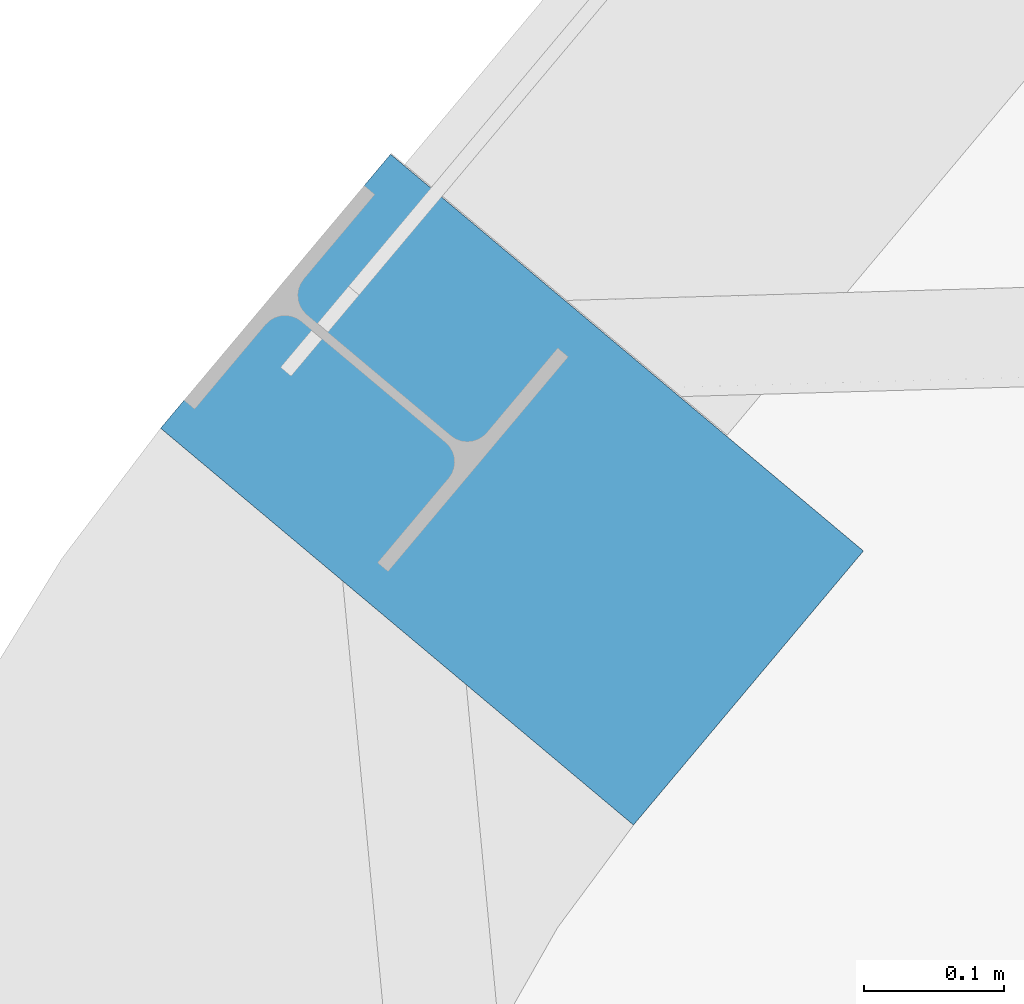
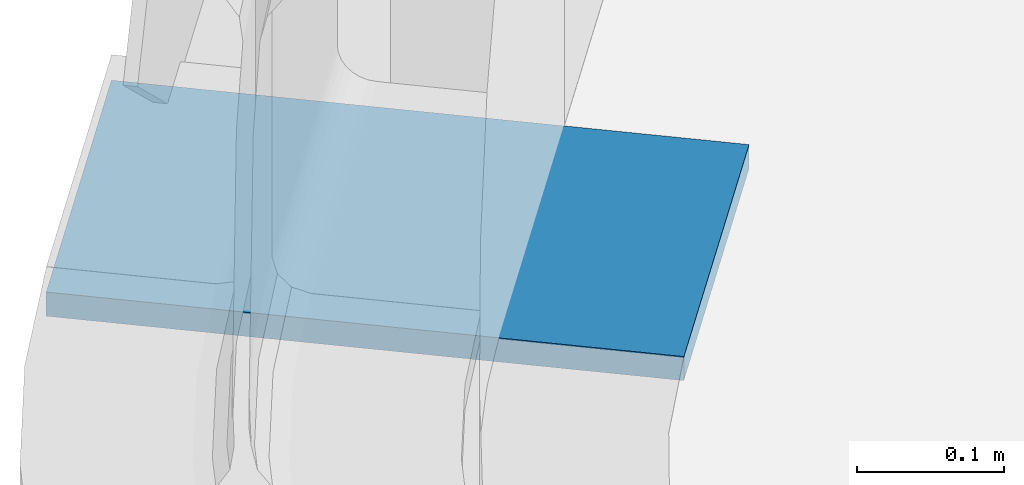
# One storey, part 20 of 25: 1 beam.
"""IFC2X3 building model written with IfcOpenShell, lengths in millimetres."""

from ifc_helpers import new_model, entity, si_unit, converted_unit, derived_unit, direction, frame, frame_2d, origin, place, context, subcontext, project, spatial, rectangle, extrude, material, type_object, element, save


model = new_model("IFC2X3")

# Units and contexts
model_context = context("Model", 3, precision=0.01, world=origin(), true_north=direction((6.123031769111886e-17, 1.0)))
body_context = subcontext(model_context, "Body", "Model", "MODEL_VIEW")
ifc_project = project(units=[si_unit("LENGTHUNIT", "METRE", prefix="MILLI"), si_unit("AREAUNIT", "SQUARE_METRE"), si_unit("VOLUMEUNIT", "CUBIC_METRE"), derived_unit("MASSDENSITYUNIT", [(si_unit("MASSUNIT", "GRAM", prefix="KILO"), 1), (si_unit("LENGTHUNIT", "METRE"), -3)]), si_unit("MASSUNIT", "GRAM", prefix="KILO"), converted_unit("PLANEANGLEUNIT", "DEGREE", entity("IfcPlaneAngleMeasure", 0.017453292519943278), si_unit("PLANEANGLEUNIT", "RADIAN"), dimensions=[0, 0, 0, 0, 0, 0, 0])], contexts=[model_context])

# Site, building, storey
site_placement = place(None, origin())
site = spatial("IfcSite", under=ifc_project, at=site_placement, Name="Default", CompositionType="ELEMENT")
building_placement = place(site_placement, origin())
building = spatial("IfcBuilding", under=site, at=building_placement, Name="AT constructie", CompositionType="ELEMENT")
storey_placement = place(building_placement, frame((0.0, 0.0, 3864.0)))
storey = spatial("IfcBuildingStorey", under=building, at=storey_placement, Name="01 eerste verdieping", CompositionType="ELEMENT", Elevation=3864.0)

# Beam
ifc_material = material(Name="h2_staal_S355")
beam_type = type_object("IfcBeamType", Name="balk strip liggend_gen_440x20", PredefinedType="NOTDEFINED")
beam_placement = place(storey_placement, frame((7031.381967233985, 36902.651358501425, 0.0), z_axis=(0.0, 0.0, 1.0), x_axis=(0.6427876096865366, 0.7660444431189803, 0.0)))
element("IfcBeam", 1, at=beam_placement, inside=storey, type_object=beam_type, material=ifc_material, Name="NLRS_28_SF_LIB_balk strip_gen_AT:balk strip liggend_gen_440x20", ObjectType="NLRS_28_SF_LIB_balk strip_gen_AT:balk strip liggend_gen_440x20", context=body_context, shape_type="SweptSolid", body=[
    extrude(rectangle(XDim=19.999999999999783, YDim=440.000000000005, at=frame_2d((0.0, -3.0411229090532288e-12), x_axis=(1.0, 0.0))), frame((0.0, 0.0, -601.0), z_axis=(1.0, 0.0, 0.0), x_axis=(0.0, 0.0, -1.0)), (0.0, 0.0, 1.0), 254.99999999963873),
])

save(model, "model.ifc")
